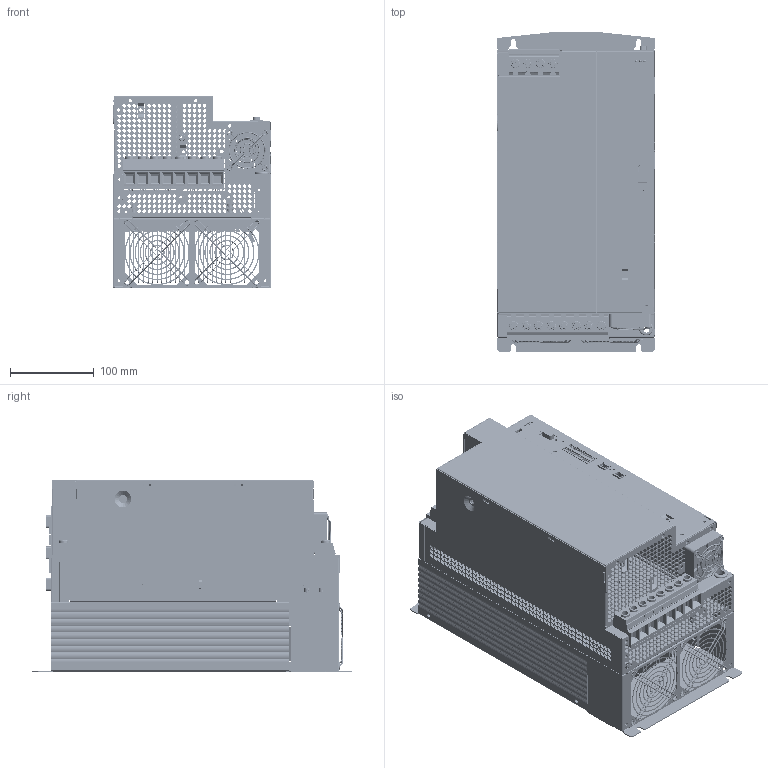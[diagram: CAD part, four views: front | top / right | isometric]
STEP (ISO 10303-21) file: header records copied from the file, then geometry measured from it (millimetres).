
FILE_DESCRIPTION (( 'STEP AP214' ), '1' );
FILE_NAME ('c-line BG6 Wandmontage.STEP', '2013-08-28T07:24:24', ( '' ), ( '' ), 'SwSTEP 2.0', 'SolidWorks 2012', '' );
FILE_SCHEMA (( 'AUTOMOTIVE_DESIGN' ));
Length unit declared in the file: millimetre
Products named in the file (29): C-line BG6 Gehäuse; Stecker 4pol; Stecker 2pol; Steuerprint CDE; 183_-01366-; 183_-01497-; 183_-01363G; 062-03986 Schutzgitter SC50-W1; 062-03761 Lüfter 50x50x15mm; 183_-01494-; 183_-01364-; Servo one BG5 Leistungsklemmen; 183-01465 Bezeichnungsstreifen; 183-01466 Bezeichnungsstreifen; MKDSP25-8-15; MKDSP25-4-15; 111871 Lüftergitter 80x80mm; 183_-01362-; 183_-01362- Teil 3; 183_-01362- Teil 2; 183_-01362- Teil 1; 183-01361 Lüfterkasten; Gewindebuchse BSO-M5-18; Durchf黨rungst黮le; Lüfterkasten; 183-01360 Montageblech; Einpreßmutter-M4; Montageblech; c-line BG6 Wandmontage
Assembly tree (60 placements, depth 4):
  c-line BG6 Wandmontage
    183-01360 Montageblech
      Montageblech
      Einpreßmutter-M4  x2
    183-01361 Lüfterkasten
      Lüfterkasten
      Durchf黨rungst黮le
      Einpreßmutter-M4  x2
      Gewindebuchse BSO-M5-18  x2
    183_-01362-
      183_-01362- Teil 1
      183_-01362- Teil 2  x14
      183_-01362- Teil 3  x14
    111871 Lüftergitter 80x80mm  x2
    C-line BG6 Gehäuse
      Servo one BG5 Leistungsklemmen
        MKDSP25-4-15
        MKDSP25-8-15
        183-01466 Bezeichnungsstreifen
        183-01465 Bezeichnungsstreifen
      183_-01364-
      183_-01494-
      062-03761 Lüfter 50x50x15mm
      062-03986 Schutzgitter SC50-W1
      183_-01363G
      183_-01497-
      183_-01366-
      Steuerprint CDE
      Stecker 2pol  x2
      Stecker 4pol
Bounding box: 190 x 381.67 x 230.2 mm (x, y, z)
Volume: 2126290.4 mm3; surface area: 2169575.9 mm2
Topology: 59 solids, 60 shells, 7588 faces, 21057 edges, 13877 vertices
Faces by surface type: plane 3637, bspline 2135, cylinder 1590, torus 136, cone 87, sphere 3
Entity records: 290184 total; most frequent: CARTESIAN_POINT 101949, ORIENTED_EDGE 39524, DIRECTION 25738, EDGE_CURVE 19762, VERTEX_POINT 13023, VECTOR 9858, LINE 9858, EDGE_LOOP 9695
